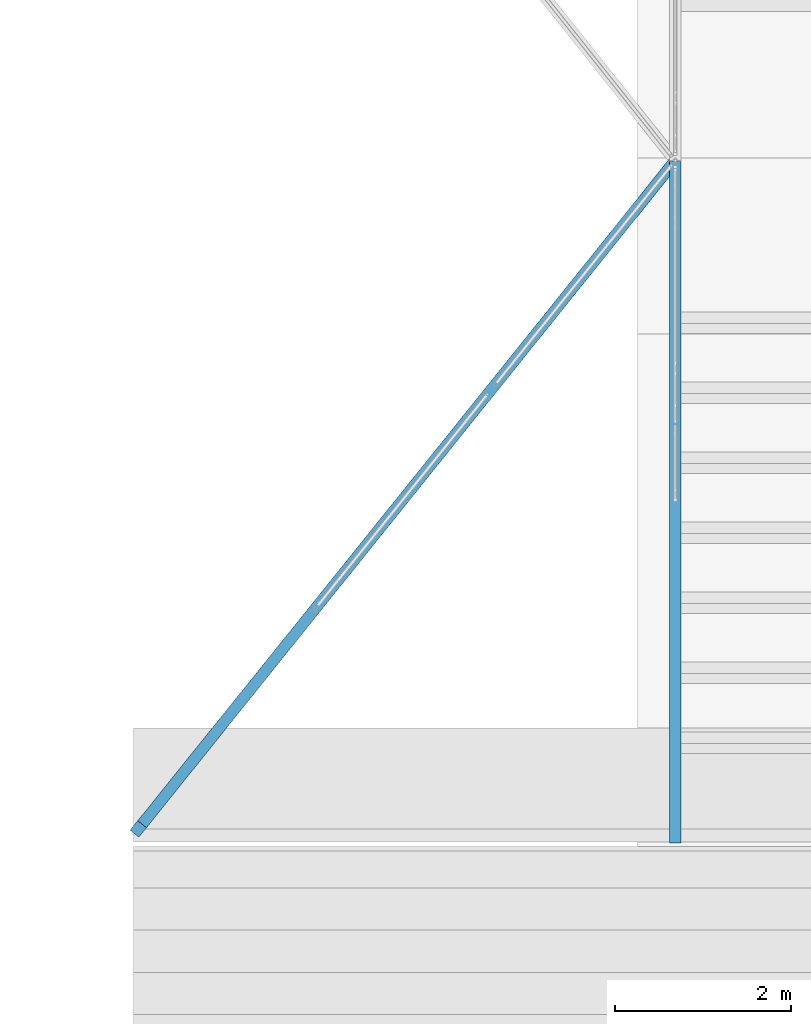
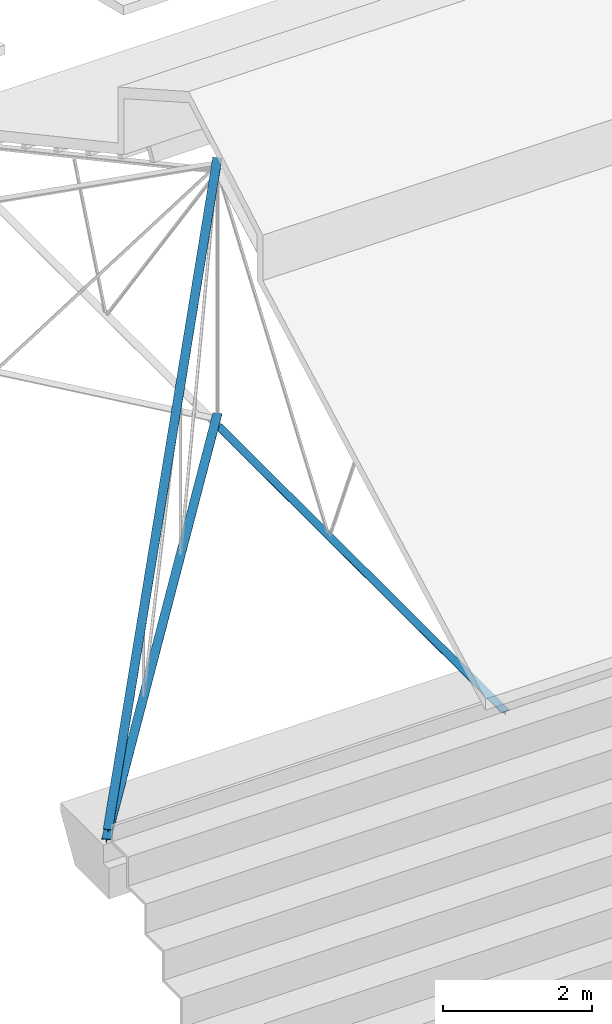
# One storey, part 2 of 15: 3 beams, 2 elements without a shape of their own.
"""IFC4 building model written with IfcOpenShell, lengths in metres."""

from ifc_helpers import new_model, entity, si_unit, converted_unit, derived_unit, direction, frame, origin, place, context, subcontext, project, spatial, line, arc, indexed_curve, outline, extrude, source, transform, mapped, material, type_object, type_shapes, element, aggregate, save


model = new_model("IFC4")

# Units and contexts
model_context = context("Model", 3, precision=1e-05, world=origin(), true_north=direction((6.123031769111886e-17, 1.0)))
body_context = subcontext(model_context, "Body", "Model", "MODEL_VIEW")
ifc_project = project(units=[si_unit("LENGTHUNIT", "METRE"), si_unit("AREAUNIT", "SQUARE_METRE"), si_unit("VOLUMEUNIT", "CUBIC_METRE"), converted_unit("PLANEANGLEUNIT", "DEGREE", entity("IfcRatioMeasure", 0.017453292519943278), si_unit("PLANEANGLEUNIT", "RADIAN"), dimensions=[0, 0, 0, 0, 0, 0, 0]), si_unit("MASSUNIT", "GRAM", prefix="KILO"), derived_unit("MASSDENSITYUNIT", [(si_unit("MASSUNIT", "GRAM", prefix="KILO"), 1), (si_unit("LENGTHUNIT", "METRE"), -3)]), derived_unit("MOMENTOFINERTIAUNIT", [(si_unit("LENGTHUNIT", "METRE"), 4)]), si_unit("TIMEUNIT", "SECOND"), si_unit("FREQUENCYUNIT", "HERTZ"), si_unit("THERMODYNAMICTEMPERATUREUNIT", "DEGREE_CELSIUS"), derived_unit("THERMALTRANSMITTANCEUNIT", [(si_unit("MASSUNIT", "GRAM", prefix="KILO"), 1), (si_unit("THERMODYNAMICTEMPERATUREUNIT", "KELVIN"), -1), (si_unit("TIMEUNIT", "SECOND"), -3)]), derived_unit("VOLUMETRICFLOWRATEUNIT", [(si_unit("LENGTHUNIT", "METRE"), 3), (si_unit("TIMEUNIT", "SECOND"), -1)]), derived_unit("MASSFLOWRATEUNIT", [(si_unit("MASSUNIT", "GRAM", prefix="KILO"), 1), (si_unit("TIMEUNIT", "SECOND"), -1)]), derived_unit("ROTATIONALFREQUENCYUNIT", [(si_unit("TIMEUNIT", "SECOND"), -1)]), si_unit("ELECTRICCURRENTUNIT", "AMPERE"), si_unit("ELECTRICVOLTAGEUNIT", "VOLT"), si_unit("POWERUNIT", "WATT"), si_unit("FORCEUNIT", "NEWTON", prefix="KILO"), si_unit("ILLUMINANCEUNIT", "LUX"), si_unit("LUMINOUSFLUXUNIT", "LUMEN"), si_unit("LUMINOUSINTENSITYUNIT", "CANDELA"), derived_unit("USERDEFINED", [(si_unit("MASSUNIT", "GRAM", prefix="KILO"), -1), (si_unit("LENGTHUNIT", "METRE"), -2), (si_unit("TIMEUNIT", "SECOND"), 3), (si_unit("LUMINOUSFLUXUNIT", "LUMEN"), 1)]), derived_unit("SOUNDPOWERUNIT", [(si_unit("MASSUNIT", "GRAM", prefix="KILO"), 1), (si_unit("LENGTHUNIT", "METRE"), 2), (si_unit("TIMEUNIT", "SECOND"), -3)]), derived_unit("SOUNDPRESSUREUNIT", [(si_unit("MASSUNIT", "GRAM", prefix="KILO"), 1), (si_unit("LENGTHUNIT", "METRE"), -1), (si_unit("TIMEUNIT", "SECOND"), -2)]), derived_unit("LINEARVELOCITYUNIT", [(si_unit("LENGTHUNIT", "METRE"), 1), (si_unit("TIMEUNIT", "SECOND"), -1)]), si_unit("PRESSUREUNIT", "PASCAL"), derived_unit("USERDEFINED", [(si_unit("LENGTHUNIT", "METRE"), -2), (si_unit("MASSUNIT", "GRAM", prefix="KILO"), 1), (si_unit("TIMEUNIT", "SECOND"), -2)]), derived_unit("LINEARFORCEUNIT", [(si_unit("MASSUNIT", "GRAM", prefix="KILO"), 1), (si_unit("LENGTHUNIT", "METRE"), 1), (si_unit("TIMEUNIT", "SECOND"), -2), (si_unit("LENGTHUNIT", "METRE"), -1)]), derived_unit("PLANARFORCEUNIT", [(si_unit("MASSUNIT", "GRAM", prefix="KILO"), 1), (si_unit("LENGTHUNIT", "METRE"), 1), (si_unit("TIMEUNIT", "SECOND"), -2), (si_unit("LENGTHUNIT", "METRE"), -2)])], contexts=[model_context])

# Site, building, storey
site_placement = place(None, origin())
site = spatial("IfcSite", under=ifc_project, at=site_placement, Name="Superficie", CompositionType="ELEMENT")
building_placement = place(site_placement, origin())
building = spatial("IfcBuilding", under=site, at=building_placement, CompositionType="ELEMENT")
storey_placement = place(building_placement, frame((0.0, 0.0, 7.25)))
storey = spatial("IfcBuildingStorey", under=building, at=storey_placement, Name="Nivel 2", CompositionType="ELEMENT", Elevation=7.25)

# Assembly, beams
assembly_1_placement = place(storey_placement, origin())
assembly_1 = element("IfcElementAssembly", 1, at=assembly_1_placement, inside=storey, Name="Cercha esquina:Cercha esquina", ObjectType="Cercha esquina:Cercha esquina", AssemblyPlace="NOTDEFINED", PredefinedType="TRUSS")
ifc_material = material(Name="Metal - Acero - 345 MPa", Category="Metal")
beam_type_1 = type_object("IfcBeamType", Name="MT-T estructural:MT65X14.05", PredefinedType="BEAM", material=ifc_material)
shared_shape_1 = source(origin(), body_context, "Body", "SweptSolid", [
    extrude(outline(indexed_curve([(-0.019739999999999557, -0.06349999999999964), (-0.009140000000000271, -0.06349999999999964), (-0.009140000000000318, -0.007400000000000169), (-0.008144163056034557, -0.004995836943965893), (-0.005740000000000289, -0.004000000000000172), (0.04376000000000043, -0.004000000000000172), (0.04376000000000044, 0.0039999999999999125), (-0.005740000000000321, 0.003999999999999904), (-0.008144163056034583, 0.004995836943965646), (-0.009140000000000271, 0.00739999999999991), (-0.009140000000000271, 0.06350000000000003), (-0.019739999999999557, 0.06350000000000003)], segments=[line(1, 2, 3), arc(3, 4, 5), line(5, 6, 7, 8), arc(8, 9, 10), line(10, 11, 12, 1)], self_intersect=False)), frame((-4.904500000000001, 0.0, 0.012009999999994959), z_axis=(1.0, 0.0, 0.0), x_axis=(0.0, 0.0, -1.0)), (0.0, 0.0, 1.0), 9.801),
])
type_shapes(beam_type_1, [shared_shape_1])
beam_1_placement = place(assembly_1_placement, frame((-19.558644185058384, -5.776248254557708, 0.2016781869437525), z_axis=(-0.013231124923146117, -0.016471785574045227, 0.9997767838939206), x_axis=(0.6261037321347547, 0.7794534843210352, 0.021127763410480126)))
beam_1 = element("IfcBeam", 2, at=beam_1_placement, type_object=beam_type_1, material=ifc_material, Name="MT-T estructural:MT65X14.05", ObjectType="MT-T estructural:MT65X14.05", PredefinedType="BEAM", context=body_context, shape_type="MappedRepresentation", body=[
    mapped(shared_shape_1, transform((0.0, 0.0, 0.0), scale=1.0)),
])
beam_type_2 = type_object("IfcBeamType", Name="MT-T estructural:MT65X14.05", PredefinedType="BEAM", material=ifc_material)
shared_shape_2 = source(origin(), body_context, "Body", "SweptSolid", [
    extrude(outline(indexed_curve([(-0.019739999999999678, -0.06349999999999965), (-0.009140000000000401, -0.06349999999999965), (-0.009139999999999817, -0.007400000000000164), (-0.008144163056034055, -0.004995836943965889), (-0.005740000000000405, -0.0040000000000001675), (0.04376000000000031, -0.0040000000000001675), (0.04376000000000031, 0.003999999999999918), (-0.00573999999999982, 0.003999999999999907), (-0.008144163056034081, 0.004995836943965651), (-0.009140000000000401, 0.0073999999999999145), (-0.009140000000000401, 0.06350000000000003), (-0.019739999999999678, 0.06350000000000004)], segments=[line(1, 2, 3), arc(3, 4, 5), line(5, 6, 7, 8), arc(8, 9, 10), line(10, 11, 12, 1)], self_intersect=False)), frame((-5.211999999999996, 0.0, 0.012009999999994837), z_axis=(1.0, 0.0, 0.0), x_axis=(0.0, 0.0, -1.0)), (0.0, 0.0, 1.0), 10.581),
])
type_shapes(beam_type_2, [shared_shape_2])
beam_2_placement = place(assembly_1_placement, frame((-19.558644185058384, -5.776248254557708, 2.302569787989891), z_axis=(-0.2571067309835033, -0.3200791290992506, 0.9118363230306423), x_axis=(0.5710315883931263, 0.71089268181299, 0.4105539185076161)))
beam_2 = element("IfcBeam", 3, at=beam_2_placement, type_object=beam_type_2, material=ifc_material, Name="MT-T estructural:MT65X14.05", ObjectType="MT-T estructural:MT65X14.05", PredefinedType="BEAM", context=body_context, shape_type="MappedRepresentation", body=[
    mapped(shared_shape_2, transform((0.0, 0.0, 0.0), scale=1.0)),
])
aggregate(assembly_1, [beam_1, beam_2])

# Assembly, beam
assembly_2_placement = place(storey_placement, origin())
assembly_2 = element("IfcElementAssembly", 4, at=assembly_2_placement, inside=storey, Name="Cercha 3:Cercha 3", ObjectType="Cercha 3:Cercha 3", AssemblyPlace="NOTDEFINED", PredefinedType="TRUSS")
beam_type_3 = type_object("IfcBeamType", Name="MT-T estructural:MT65X14.05", PredefinedType="BEAM", material=ifc_material)
shared_shape_3 = source(origin(), body_context, "Body", "SweptSolid", [
    extrude(outline(indexed_curve([(-0.004000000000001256, -0.04376000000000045), (0.003999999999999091, -0.04376000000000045), (0.003999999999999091, 0.005740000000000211), (0.004995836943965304, 0.008144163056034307), (0.007399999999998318, 0.009140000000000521), (0.06349999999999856, 0.009140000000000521), (0.06349999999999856, 0.019740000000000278), (-0.06350000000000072, 0.019740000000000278), (-0.06350000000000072, 0.009140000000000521), (-0.0074000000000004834, 0.009140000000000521), (-0.00499583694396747, 0.008144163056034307), (-0.004000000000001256, 0.005740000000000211)], segments=[line(1, 2, 3), arc(3, 4, 5), line(5, 6, 7, 8, 9, 10), arc(10, 11, 12), line(12, 1)], self_intersect=False)), frame((-16.4926517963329, -9.70338164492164, 7.370715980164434), z_axis=(0.0, 1.0, 0.0), x_axis=(-1.0, 0.0, 0.0)), (0.0, 0.0, 1.0), 7.731000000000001),
])
type_shapes(beam_type_3, [shared_shape_3])
beam_3_placement = place(assembly_2_placement, frame((0.0, 0.0, -7.25)))
beam_3 = element("IfcBeam", 5, at=beam_3_placement, type_object=beam_type_3, material=ifc_material, Name="MT-T estructural:MT65X14.05", ObjectType="MT-T estructural:MT65X14.05", PredefinedType="BEAM", context=body_context, shape_type="MappedRepresentation", body=[
    mapped(shared_shape_3, transform((0.0, 0.0, 0.0), scale=1.0)),
])
aggregate(assembly_2, [beam_3])

save(model, "model.ifc")
